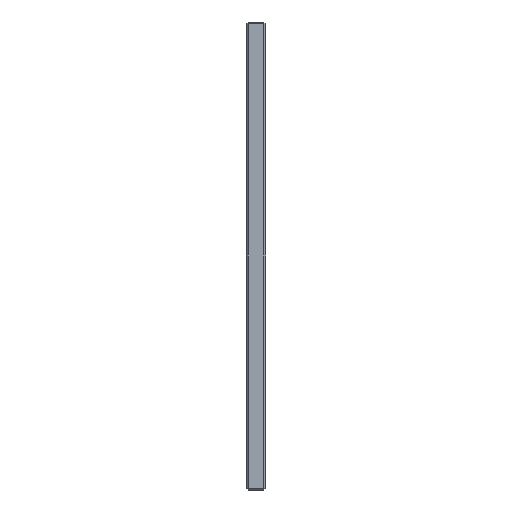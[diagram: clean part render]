
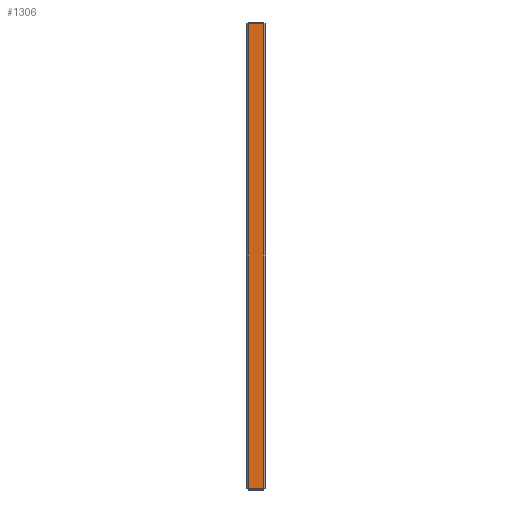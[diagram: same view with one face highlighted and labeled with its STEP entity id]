
A CAD part, left-side view. The second image highlights one B-rep face of the part: STEP entity #1306.
In plain terms, the highlighted planar face has unit normal (-1, 0, 0).
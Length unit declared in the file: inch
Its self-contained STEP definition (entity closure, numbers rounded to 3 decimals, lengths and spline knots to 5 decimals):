
#129 = VECTOR ( 'NONE', #1331, 39.37008 ) ;
#264 = CARTESIAN_POINT ( 'NONE',  ( -11.6875, 0.45, -5.875 ) ) ;
#291 = EDGE_CURVE ( 'NONE', #1948, #363, #1459, .T. ) ;
#359 = VECTOR ( 'NONE', #833, 39.37008 ) ;
#363 = VERTEX_POINT ( 'NONE', #1142 ) ;
#410 = PLANE ( 'NONE',  #987 ) ;
#509 = LINE ( 'NONE', #1817, #129 ) ;
#510 = CARTESIAN_POINT ( 'NONE',  ( -11.6875, 0.05, -5.825 ) ) ;
#560 = LINE ( 'NONE', #264, #1109 ) ;
#586 = DIRECTION ( 'NONE',  ( 0., 0., -1. ) ) ;
#620 = DIRECTION ( 'NONE',  ( 0., -1., 0. ) ) ;
#636 = ORIENTED_EDGE ( 'NONE', *, *, #1661, .T. ) ;
#682 = VERTEX_POINT ( 'NONE', #510 ) ;
#708 = EDGE_LOOP ( 'NONE', ( #1469, #1769, #636, #927 ) ) ;
#833 = DIRECTION ( 'NONE',  ( 0., 1., 0. ) ) ;
#915 = LINE ( 'NONE', #1228, #940 ) ;
#927 = ORIENTED_EDGE ( 'NONE', *, *, #291, .T. ) ;
#940 = VECTOR ( 'NONE', #620, 39.37008 ) ;
#987 = AXIS2_PLACEMENT_3D ( 'NONE', #1986, #1979, #1665 ) ;
#1020 = FACE_OUTER_BOUND ( 'NONE', #708, .T. ) ;
#1025 = EDGE_CURVE ( 'NONE', #1126, #682, #915, .T. ) ;
#1109 = VECTOR ( 'NONE', #586, 39.37008 ) ;
#1126 = VERTEX_POINT ( 'NONE', #1704 ) ;
#1142 = CARTESIAN_POINT ( 'NONE',  ( -11.6875, 0.45, 5.825 ) ) ;
#1228 = CARTESIAN_POINT ( 'NONE',  ( -11.6875, 0.5, -5.825 ) ) ;
#1306 = ADVANCED_FACE ( 'Placement Plane', ( #1020 ), #410, .F. ) ;
#1331 = DIRECTION ( 'NONE',  ( 0., 0., 1. ) ) ;
#1445 = CARTESIAN_POINT ( 'NONE',  ( -11.6875, 0.5, 5.825 ) ) ;
#1459 = LINE ( 'NONE', #1445, #359 ) ;
#1469 = ORIENTED_EDGE ( 'NONE', *, *, #1958, .T. ) ;
#1497 = CARTESIAN_POINT ( 'NONE',  ( -11.6875, 0.05, 5.825 ) ) ;
#1661 = EDGE_CURVE ( 'NONE', #682, #1948, #509, .T. ) ;
#1665 = DIRECTION ( 'NONE',  ( 0., 0., -1. ) ) ;
#1704 = CARTESIAN_POINT ( 'NONE',  ( -11.6875, 0.45, -5.825 ) ) ;
#1769 = ORIENTED_EDGE ( 'NONE', *, *, #1025, .T. ) ;
#1817 = CARTESIAN_POINT ( 'NONE',  ( -11.6875, 0.05, -5.875 ) ) ;
#1948 = VERTEX_POINT ( 'NONE', #1497 ) ;
#1958 = EDGE_CURVE ( 'NONE', #363, #1126, #560, .T. ) ;
#1979 = DIRECTION ( 'NONE',  ( 1., 0., 0. ) ) ;
#1986 = CARTESIAN_POINT ( 'NONE',  ( -11.6875, 0.5, -5.875 ) ) ;
